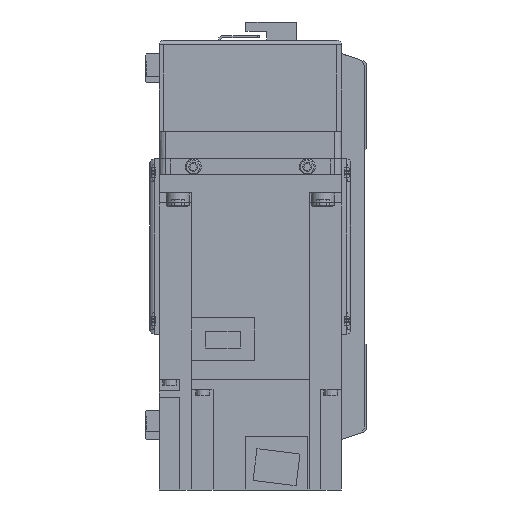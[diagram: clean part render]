
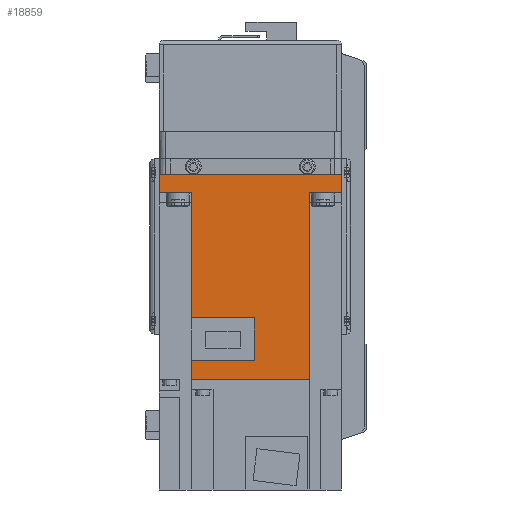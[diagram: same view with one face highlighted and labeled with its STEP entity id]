
A CAD part, left-side view. The second image highlights one B-rep face of the part: STEP entity #18859.
In plain terms, the highlighted planar face has unit normal (-1, 0, 0) as drawn and (1, 0, 0) by its records, which use the part's own axes.
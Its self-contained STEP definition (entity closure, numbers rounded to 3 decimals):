
#2107=ORIENTED_EDGE('',*,*,#7275,.F.);
#2108=ORIENTED_EDGE('',*,*,#7276,.F.);
#2109=ORIENTED_EDGE('',*,*,#7277,.F.);
#2110=ORIENTED_EDGE('',*,*,#7278,.T.);
#2111=ORIENTED_EDGE('',*,*,#7279,.F.);
#2112=ORIENTED_EDGE('',*,*,#7280,.T.);
#2113=ORIENTED_EDGE('',*,*,#7281,.T.);
#2114=ORIENTED_EDGE('',*,*,#7282,.F.);
#2115=ORIENTED_EDGE('',*,*,#7283,.F.);
#2116=ORIENTED_EDGE('',*,*,#7284,.F.);
#2117=ORIENTED_EDGE('',*,*,#7285,.F.);
#2118=ORIENTED_EDGE('',*,*,#7286,.F.);
#7275=EDGE_CURVE('',#9919,#9920,#11797,.T.);
#7276=EDGE_CURVE('',#9921,#9919,#11798,.T.);
#7277=EDGE_CURVE('',#9922,#9921,#11799,.T.);
#7278=EDGE_CURVE('',#9922,#9923,#11800,.T.);
#7279=EDGE_CURVE('',#9924,#9923,#11801,.T.);
#7280=EDGE_CURVE('',#9924,#9925,#11802,.T.);
#7281=EDGE_CURVE('',#9925,#9926,#11803,.T.);
#7282=EDGE_CURVE('',#9927,#9926,#11804,.T.);
#7283=EDGE_CURVE('',#9928,#9927,#11805,.T.);
#7284=EDGE_CURVE('',#9929,#9928,#11806,.T.);
#7285=EDGE_CURVE('',#9930,#9929,#11807,.T.);
#7286=EDGE_CURVE('',#9920,#9930,#11808,.T.);
#9919=VERTEX_POINT('',#28404);
#9920=VERTEX_POINT('',#28405);
#9921=VERTEX_POINT('',#28407);
#9922=VERTEX_POINT('',#28409);
#9923=VERTEX_POINT('',#28411);
#9924=VERTEX_POINT('',#28413);
#9925=VERTEX_POINT('',#28415);
#9926=VERTEX_POINT('',#28417);
#9927=VERTEX_POINT('',#28419);
#9928=VERTEX_POINT('',#28421);
#9929=VERTEX_POINT('',#28423);
#9930=VERTEX_POINT('',#28425);
#11797=LINE('',#28403,#13493);
#11798=LINE('',#28406,#13494);
#11799=LINE('',#28408,#13495);
#11800=LINE('',#28410,#13496);
#11801=LINE('',#28412,#13497);
#11802=LINE('',#28414,#13498);
#11803=LINE('',#28416,#13499);
#11804=LINE('',#28418,#13500);
#11805=LINE('',#28420,#13501);
#11806=LINE('',#28422,#13502);
#11807=LINE('',#28424,#13503);
#11808=LINE('',#28426,#13504);
#13493=VECTOR('',#22641,1000.);
#13494=VECTOR('',#22642,1000.);
#13495=VECTOR('',#22643,1000.);
#13496=VECTOR('',#22644,1000.);
#13497=VECTOR('',#22645,1000.);
#13498=VECTOR('',#22646,1000.);
#13499=VECTOR('',#22647,1000.);
#13500=VECTOR('',#22648,1000.);
#13501=VECTOR('',#22649,1000.);
#13502=VECTOR('',#22650,1000.);
#13503=VECTOR('',#22651,1000.);
#13504=VECTOR('',#22652,1000.);
#15181=EDGE_LOOP('',(#2107,#2108,#2109,#2110,#2111,#2112,#2113,#2114,#2115,
#2116,#2117,#2118));
#16703=FACE_BOUND('',#15181,.T.);
#18118=PLANE('',#20169);
#18859=ADVANCED_FACE('',(#16703),#18118,.F.);
#20169=AXIS2_PLACEMENT_3D('',#28402,#22639,#22640);
#22639=DIRECTION('',(-1.,0.,0.));
#22640=DIRECTION('',(0.,0.,1.));
#22641=DIRECTION('',(0.,0.,1.));
#22642=DIRECTION('',(0.,-1.,0.));
#22643=DIRECTION('',(0.,0.,-1.));
#22644=DIRECTION('',(0.,-1.,0.));
#22645=DIRECTION('',(0.,0.,-1.));
#22646=DIRECTION('',(0.,-1.,0.));
#22647=DIRECTION('',(0.,0.,-1.));
#22648=DIRECTION('',(0.,-1.,0.));
#22649=DIRECTION('',(0.,0.,-1.));
#22650=DIRECTION('',(0.,-1.,0.));
#22651=DIRECTION('',(0.,0.,-1.));
#22652=DIRECTION('',(0.,-1.,0.));
#28402=CARTESIAN_POINT('',(40.,89.8,40.));
#28403=CARTESIAN_POINT('',(40.,81.4,-26.));
#28404=CARTESIAN_POINT('',(40.,81.4,-25.95));
#28405=CARTESIAN_POINT('',(40.,81.4,1.8));
#28406=CARTESIAN_POINT('',(40.,158.,-25.95));
#28407=CARTESIAN_POINT('',(40.,89.8,-25.95));
#28408=CARTESIAN_POINT('',(40.,89.8,40.));
#28409=CARTESIAN_POINT('',(40.,89.8,25.95));
#28410=CARTESIAN_POINT('',(40.,158.,25.95));
#28411=CARTESIAN_POINT('',(40.,8.,25.95));
#28412=CARTESIAN_POINT('',(40.,8.,40.));
#28413=CARTESIAN_POINT('',(40.,8.,40.));
#28414=CARTESIAN_POINT('',(40.,89.8,40.));
#28415=CARTESIAN_POINT('',(40.,0.,40.));
#28416=CARTESIAN_POINT('',(40.,0.,40.));
#28417=CARTESIAN_POINT('',(40.,0.,-40.));
#28418=CARTESIAN_POINT('',(40.,89.8,-40.));
#28419=CARTESIAN_POINT('',(40.,8.,-40.));
#28420=CARTESIAN_POINT('',(40.,8.,40.));
#28421=CARTESIAN_POINT('',(40.,8.,-25.95));
#28422=CARTESIAN_POINT('',(40.,158.,-25.95));
#28423=CARTESIAN_POINT('',(40.,62.8,-25.95));
#28424=CARTESIAN_POINT('',(40.,62.8,1.8));
#28425=CARTESIAN_POINT('',(40.,62.8,1.8));
#28426=CARTESIAN_POINT('',(40.,81.4,1.8));
